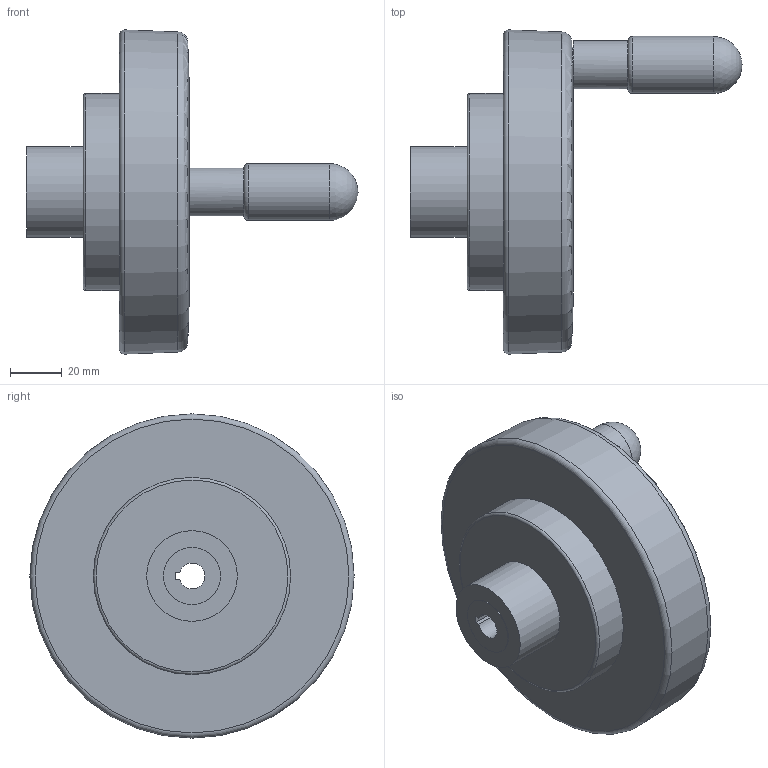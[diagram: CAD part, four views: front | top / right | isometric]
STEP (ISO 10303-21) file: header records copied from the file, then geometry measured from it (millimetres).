
FILE_DESCRIPTION( ( 'STEP AP203' ), '1' );
FILE_NAME( 'C:/Temp/Ganter_Step_05_03_2020/data/1_4/gn521_8/gn521_8_k_d/Disc handwheel GN 521.8-125-K10-D.stp', '2020-03-05T10:53:27', ( 'License CC BY-ND 4.0' ), ( 'CADENAS' ), ' ', 'PARTsolutions', ' ' );
FILE_SCHEMA( ( 'CONFIG_CONTROL_DESIGN' ) );
Length unit declared in the file: millimetre
Products named in the file (1): _Disc handwheel GN 521.8-125-K10-D
Bounding box: 128 x 125 x 125 mm (x, y, z)
Volume: 298788.9 mm3; surface area: 51870.4 mm2
Topology: 1 solids, 1 shells, 28 faces, 61 edges, 38 vertices
Faces by surface type: plane 11, cylinder 9, torus 5, cone 2, sphere 1
Full cylindrical faces by diameter (mm): 14 x1, 18.5 x1, 22 x2, 30 x1, 35 x1, 68.5 x1, 76 x1
Entity records: 762 total; most frequent: CARTESIAN_POINT 184, DIRECTION 120, ORIENTED_EDGE 74, AXIS2_PLACEMENT_3D 55, EDGE_LOOP 52, FACE_OUTER_BOUND 41, EDGE_CURVE 37, VERTEX_POINT 33
